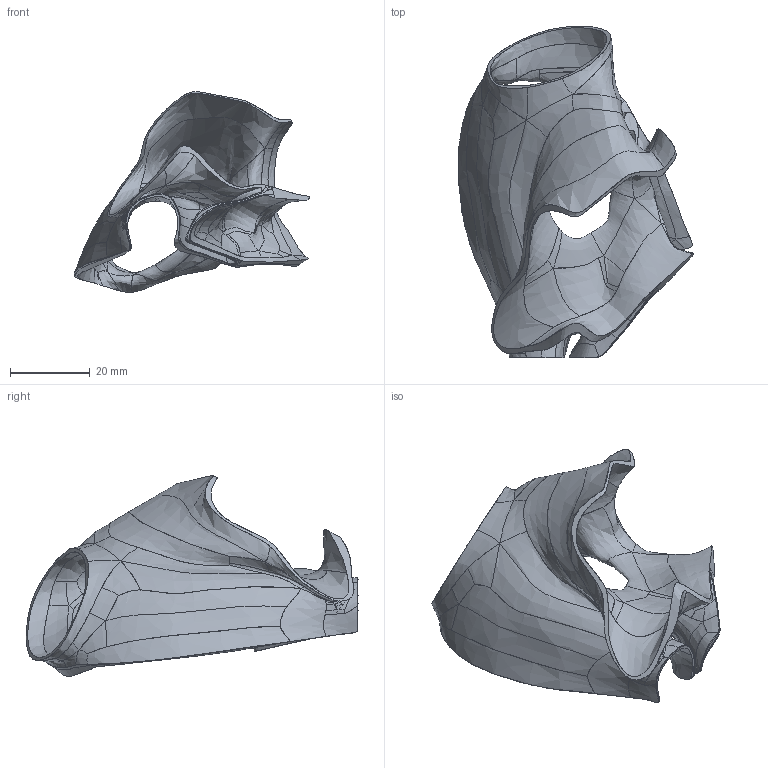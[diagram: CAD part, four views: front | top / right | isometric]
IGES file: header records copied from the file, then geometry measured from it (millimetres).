
Global section: file name: C:\FDA Main\FDA-Septal-Models\9667041\9667041.phase.90.igs; native system: Rhinoceros ( Mar  9 2011 ); preprocessor: Trout Lake IGES 012 Mar  9 2011; date: 120607.042854; units: millimetre
Bounding box: 59.16 x 83.28 x 50.36 mm (x, y, z)
Surface area: 14835.5 mm2 (no closed solid volume)
Topology: 0 solids, 0 shells, 327 faces, 1306 edges, 1304 vertices
Faces by surface type: bspline 327
